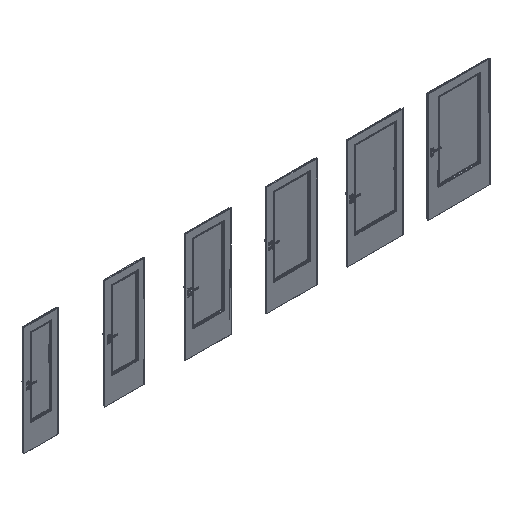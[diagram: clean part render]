
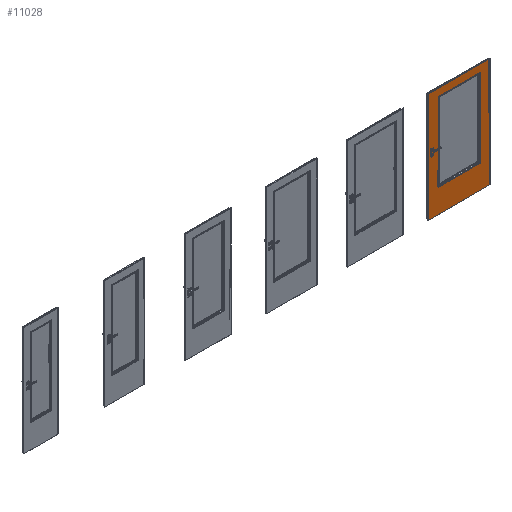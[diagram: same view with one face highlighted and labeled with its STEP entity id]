
A CAD part, isometric view. The second image highlights one B-rep face of the part: STEP entity #11028.
In plain terms, the highlighted planar face has unit normal (0, -1, 0).
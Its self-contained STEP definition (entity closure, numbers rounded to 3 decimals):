
#11028=ADVANCED_FACE('',(#17408,#17409),#14416,.F.);
#14416=PLANE('',#73773);
#17106=CIRCLE('',#73769,7.);
#17107=CIRCLE('',#73770,7.);
#17108=CIRCLE('',#73771,7.);
#17109=CIRCLE('',#73772,7.);
#17408=FACE_BOUND('',#18605,.T.);
#17409=FACE_BOUND('',#18606,.T.);
#18605=EDGE_LOOP('',(#26460,#26461,#26462,#26463,#26464,#26465,#26466,#26467));
#18606=EDGE_LOOP('',(#26468,#26469,#26470,#26471));
#26460=ORIENTED_EDGE('',*,*,#50748,.T.);
#26461=ORIENTED_EDGE('',*,*,#50749,.T.);
#26462=ORIENTED_EDGE('',*,*,#50750,.T.);
#26463=ORIENTED_EDGE('',*,*,#50751,.T.);
#26464=ORIENTED_EDGE('',*,*,#50752,.T.);
#26465=ORIENTED_EDGE('',*,*,#50753,.T.);
#26466=ORIENTED_EDGE('',*,*,#50754,.T.);
#26467=ORIENTED_EDGE('',*,*,#50755,.T.);
#26468=ORIENTED_EDGE('',*,*,#50756,.T.);
#26469=ORIENTED_EDGE('',*,*,#50757,.T.);
#26470=ORIENTED_EDGE('',*,*,#50758,.F.);
#26471=ORIENTED_EDGE('',*,*,#50746,.F.);
#43194=VERTEX_POINT('',#103679);
#43195=VERTEX_POINT('',#103681);
#43196=VERTEX_POINT('',#103685);
#43197=VERTEX_POINT('',#103686);
#43198=VERTEX_POINT('',#103688);
#43199=VERTEX_POINT('',#103690);
#43200=VERTEX_POINT('',#103692);
#43201=VERTEX_POINT('',#103694);
#43202=VERTEX_POINT('',#103696);
#43203=VERTEX_POINT('',#103698);
#43204=VERTEX_POINT('',#103701);
#43205=VERTEX_POINT('',#103703);
#50746=EDGE_CURVE('',#43194,#43195,#59720,.T.);
#50748=EDGE_CURVE('',#43196,#43197,#17106,.T.);
#50749=EDGE_CURVE('',#43197,#43198,#59722,.T.);
#50750=EDGE_CURVE('',#43198,#43199,#17107,.T.);
#50751=EDGE_CURVE('',#43199,#43200,#59723,.T.);
#50752=EDGE_CURVE('',#43200,#43201,#17108,.T.);
#50753=EDGE_CURVE('',#43201,#43202,#59724,.T.);
#50754=EDGE_CURVE('',#43202,#43203,#17109,.T.);
#50755=EDGE_CURVE('',#43203,#43196,#59725,.T.);
#50756=EDGE_CURVE('',#43194,#43204,#59726,.T.);
#50757=EDGE_CURVE('',#43204,#43205,#59727,.T.);
#50758=EDGE_CURVE('',#43195,#43205,#59728,.T.);
#59720=LINE('',#103680,#66578);
#59722=LINE('',#103687,#66580);
#59723=LINE('',#103691,#66581);
#59724=LINE('',#103695,#66582);
#59725=LINE('',#103699,#66583);
#59726=LINE('',#103700,#66584);
#59727=LINE('',#103702,#66585);
#59728=LINE('',#103704,#66586);
#66578=VECTOR('',#80555,1.);
#66580=VECTOR('',#80561,1.);
#66581=VECTOR('',#80564,1.);
#66582=VECTOR('',#80567,1.);
#66583=VECTOR('',#80570,1.);
#66584=VECTOR('',#80571,1.);
#66585=VECTOR('',#80572,1.);
#66586=VECTOR('',#80573,1.);
#73769=AXIS2_PLACEMENT_3D('',#103684,#80559,#80560);
#73770=AXIS2_PLACEMENT_3D('',#103689,#80562,#80563);
#73771=AXIS2_PLACEMENT_3D('',#103693,#80565,#80566);
#73772=AXIS2_PLACEMENT_3D('',#103697,#80568,#80569);
#73773=AXIS2_PLACEMENT_3D('',#103705,#80574,#80575);
#80555=DIRECTION('',(1.,0.,0.));
#80559=DIRECTION('',(0.,1.,0.));
#80560=DIRECTION('',(1.,0.,0.));
#80561=DIRECTION('',(1.,0.,0.));
#80562=DIRECTION('',(0.,1.,0.));
#80563=DIRECTION('',(-1.,0.,0.));
#80564=DIRECTION('',(0.,0.,-1.));
#80565=DIRECTION('',(0.,1.,0.));
#80566=DIRECTION('',(-1.,0.,0.));
#80567=DIRECTION('',(-1.,0.,0.));
#80568=DIRECTION('',(0.,1.,0.));
#80569=DIRECTION('',(1.,0.,0.));
#80570=DIRECTION('',(0.,0.,1.));
#80571=DIRECTION('',(0.,0.,-1.));
#80572=DIRECTION('',(1.,0.,0.));
#80573=DIRECTION('',(0.,0.,-1.));
#80574=DIRECTION('',(0.,1.,0.));
#80575=DIRECTION('',(-1.,0.,0.));
#103679=CARTESIAN_POINT('',(7178.,-39.3,2030.));
#103680=CARTESIAN_POINT('',(7178.,-39.3,2030.));
#103681=CARTESIAN_POINT('',(8322.,-39.3,2030.));
#103684=CARTESIAN_POINT('',(7367.95,-39.3,1890.05));
#103685=CARTESIAN_POINT('',(7363.,-39.3,1885.101));
#103686=CARTESIAN_POINT('',(7372.899,-39.3,1895.));
#103687=CARTESIAN_POINT('',(7322.899,-39.3,1895.));
#103688=CARTESIAN_POINT('',(8127.101,-39.3,1895.));
#103689=CARTESIAN_POINT('',(8132.05,-39.3,1890.05));
#103690=CARTESIAN_POINT('',(8137.,-39.3,1885.101));
#103691=CARTESIAN_POINT('',(8137.,-39.3,1885.101));
#103692=CARTESIAN_POINT('',(8137.,-39.3,459.899));
#103693=CARTESIAN_POINT('',(8132.05,-39.3,454.95));
#103694=CARTESIAN_POINT('',(8127.101,-39.3,450.));
#103695=CARTESIAN_POINT('',(7677.101,-39.3,450.));
#103696=CARTESIAN_POINT('',(7372.899,-39.3,450.));
#103697=CARTESIAN_POINT('',(7367.95,-39.3,454.95));
#103698=CARTESIAN_POINT('',(7363.,-39.3,459.899));
#103699=CARTESIAN_POINT('',(7363.,-39.3,459.899));
#103700=CARTESIAN_POINT('',(7178.,-39.3,2030.));
#103701=CARTESIAN_POINT('',(7178.,-39.3,2.));
#103702=CARTESIAN_POINT('',(7178.,-39.3,2.));
#103703=CARTESIAN_POINT('',(8322.,-39.3,2.));
#103704=CARTESIAN_POINT('',(8322.,-39.3,2030.));
#103705=CARTESIAN_POINT('',(7178.,-39.3,2030.));
